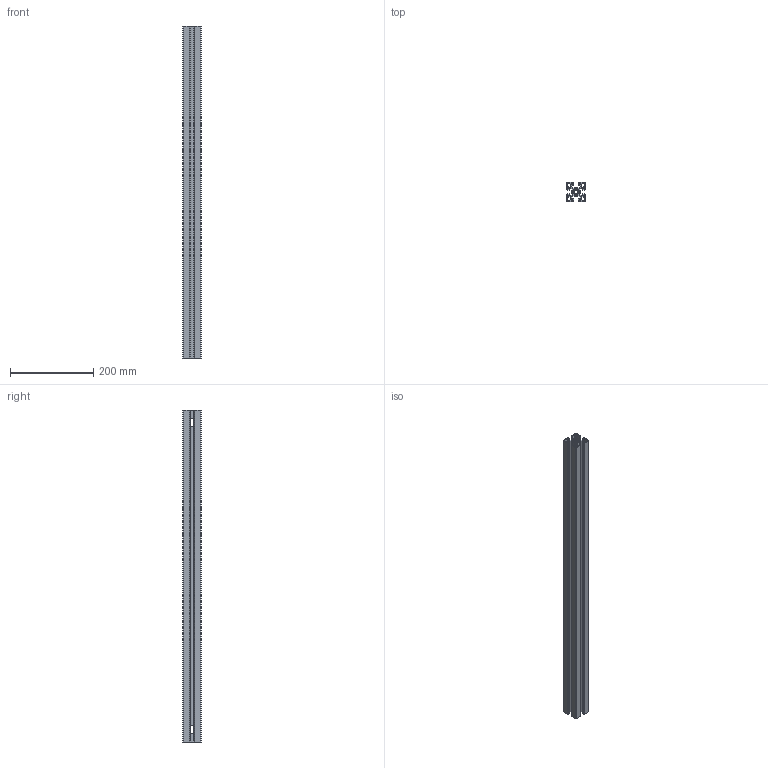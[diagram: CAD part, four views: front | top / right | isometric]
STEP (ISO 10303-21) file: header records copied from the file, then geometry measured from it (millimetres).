
FILE_DESCRIPTION(/* description */ (''),/* implementation_level */ '2;1');
FILE_NAME(/* name */ 'WHEELS-INSERT.31.stp',/* time_stamp */ '2018-05-25T14:33:10+02:00',/* author */ (''),/* organization */ (''),/* preprocessor_version */ 'ST-DEVELOPER v16.7',/* originating_system */ 'SIEMENS PLM Software NX 12.0',/* authorisation */ '');
FILE_SCHEMA (('AP203_CONFIGURATION_CONTROLLED_3D_DESIGN_OF_MECHANICAL_PARTS_AND_ASSEMBLIES_MIM_LF { 1 0 10303 403 2 1 2}'));
Length unit declared in the file: millimetre
Products named in the file (1): turc66A81BAD9ziz
Bounding box: 45 x 45 x 800 mm (x, y, z)
Volume: 605425 mm3; surface area: 497653.2 mm2
Topology: 1 solids, 1 shells, 226 faces, 696 edges, 464 vertices
Faces by surface type: plane 130, cylinder 96
Entity records: 8018 total; most frequent: CARTESIAN_POINT 1571, ORIENTED_EDGE 1392, DIRECTION 1294, EDGE_CURVE 696, VERTEX_POINT 464, LINE 456, VECTOR 456, AXIS2_PLACEMENT_3D 419
